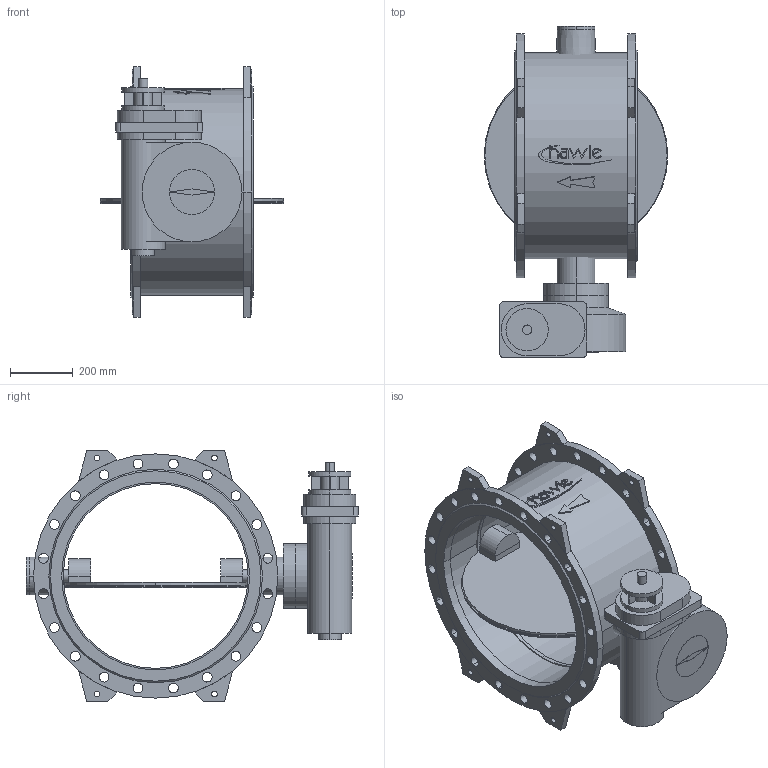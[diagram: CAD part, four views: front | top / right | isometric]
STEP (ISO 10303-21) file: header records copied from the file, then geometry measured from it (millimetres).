
FILE_DESCRIPTION(('STEP AP214'),'1');
FILE_NAME('S:/EK/USER/CAT6/3DHomepage_27-04-2012/neu_08-01-2013/9881K/9881K_PN10_DN600.STP','2013-03-11T14:52:09',(' '),(' '),'Spatial InterOp 3D',' ',' ');
FILE_SCHEMA(('automotive_design'));
Length unit declared in the file: millimetre
Products named in the file (51): 3D-Objekt
Bounding box: 586 x 1060 x 800 mm (x, y, z)
Volume: 66596330.3 mm3; surface area: 5083737.8 mm2
Topology: 51 solids, 51 shells, 429 faces, 972 edges, 648 vertices
Faces by surface type: plane 212, cylinder 209, cone 8
Entity records: 17003 total; most frequent: DIRECTION 2366, CARTESIAN_POINT 2100, ORIENTED_EDGE 1944, EDGE_CURVE 972, AXIS2_PLACEMENT_3D 914, VERTEX_POINT 648, EDGE_LOOP 540, LINE 538
